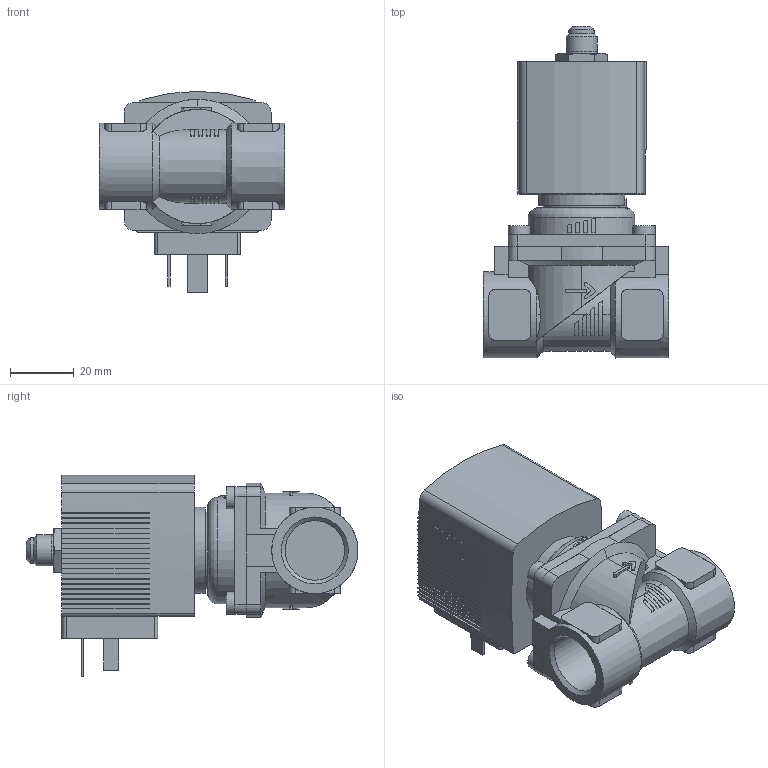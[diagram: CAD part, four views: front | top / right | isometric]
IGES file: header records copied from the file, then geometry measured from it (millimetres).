
Start section: Data from Parasolid IGES Translator 26.0.171, Copyright(c) 2006 Siemens PLM Software. All Rights Reserved.
Global section: file name: 6281-310667-2_2-Way_Solenoid_Valve__Servo-assisted__General_Purpose.igs; native system: By Siemens PLM Incorporated; preprocessor: XPlus GENERIC/IGES 26.0.171; author: Noname; organization: Noname; date: 20240516.072546; units: millimetre
Bounding box: 58 x 103.9 x 63 mm (x, y, z)
Surface area: 30589.9 mm2 (no closed solid volume)
Topology: 0 solids, 0 shells, 538 faces, 2956 edges, 2930 vertices
Faces by surface type: extrusion 419, revolution 119
